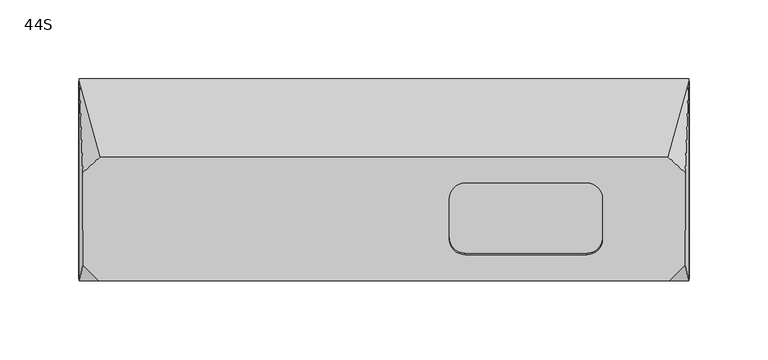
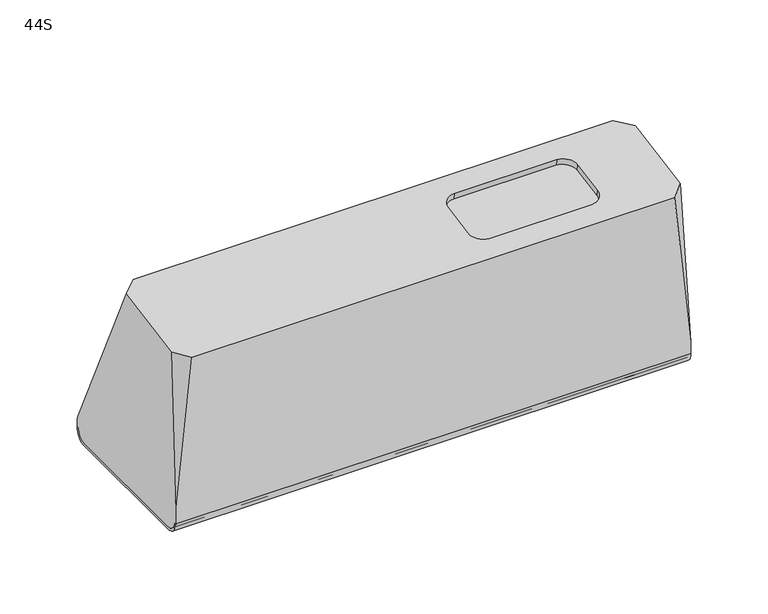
"""IFC4 building model written with IfcOpenShell, lengths in millimetres: proxy geometry, d&b xS-Series 44S Point Source : 44S."""

from ifc_helpers import new_model, si_unit, point, frame, frame_2d, origin, place, context, project, spatial, polyline, circle_curve, ellipse_curve, trimmed, segment, composite_curve, outline, extrude, source, transform, mapped, element, save
from ifc_brep_helpers import plane_surface, cylinder_surface, revolved_surface, advanced_brep


def proxy_44s_f6e05639(model_context):
    return source(origin(), model_context, "Body", "SolidModel", [
        advanced_brep(
        [(193.2924342, -64.0, -66.0), (193.2924342, -62.0435242, -66.0), (193.4294708, -54.078429, -73.9650952), (193.4294708, 54.0, -73.9650952), (193.2918337, 62.0, -65.9650952), (193.2918337, 64.0, -65.9650952), (193.1898069, 64.0, -60.0349048), (193.132384, 62.7855103, -56.6972655), (190.8800877, 4.3760941, 74.2148737), (191.0574064, -54.074657, 63.9084293), (193.132384, -64.0, -56.6972655), (-193.2924342, -62.0435242, -66.0), (-193.2924342, -64.0, -66.0), (-193.132384, -64.0, -56.6972655), (-191.0574064, -54.074657, 63.9084293), (-190.8800877, 4.3760941, 74.2148737), (-193.132384, 62.7855103, -56.6972655), (-193.1898069, 64.0, -60.0349048), (-193.2918337, 64.0, -65.9650952), (-193.2918337, 62.0, -65.9650952), (-193.4294708, 54.0, -73.9650952), (-193.4294708, -54.078429, -73.9650952), (181.3061997, -64.0, 62.1583235), (-181.3061997, -64.0, 62.1583235), (-179.9289467, 14.5000481, 76.0), (179.9289467, 14.5000481, 76.0), (138.5, -11.9474751, 71.3365881), (138.5, -37.5524767, 66.8217355), (128.5, -47.4005542, 65.0852537), (51.5, -47.4005542, 65.0852537), (41.5, -37.5524767, 66.8217355), (41.5, -11.9474751, 71.3365881), (51.5, -2.0993976, 73.0730698), (128.5, -2.0993976, 73.0730698), (138.5, -11.0792343, 66.4125493), (128.5, -1.2311567, 68.1490311), (51.5, -1.2311567, 68.1490311), (41.5, -11.0792343, 66.4125493), (41.5, -36.6842358, 61.8976967), (51.5, -46.5323134, 60.1612149), (128.5, -46.5323134, 60.1612149), (138.5, -36.6842358, 61.8976967)],
        [
            (0, 1),
            (1, 2, ellipse_curve(frame((193.2924342, -54.078429, -66.0), z_axis=(0.9998520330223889, 0.0, 0.017202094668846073), x_axis=(0.01720209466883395, 0.0, -0.999852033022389)), 7.9662739, 7.9650952)),
            (2, 3),
            (3, 4, ellipse_curve(frame((193.2918337, 54.0, -65.9650952), z_axis=(0.9998520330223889, 0.0, 0.017202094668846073), x_axis=(0.01720209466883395, 0.0, -0.999852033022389)), 8.0011839, 8.0)),
            (4, 5),
            (5, 6),
            (6, 7),
            (7, 8),
            (8, 9),
            (9, 10),
            (10, 0),
            (11, 12),
            (12, 13),
            (13, 14),
            (14, 15),
            (15, 16),
            (16, 17),
            (17, 18),
            (18, 19),
            (19, 20, ellipse_curve(frame((-193.2918337, 54.0, -65.9650952), z_axis=(-0.999852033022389, 0.0, 0.01720209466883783), x_axis=(0.017202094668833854, 0.0, 0.999852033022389)), 8.0011839, 8.0)),
            (20, 21),
            (21, 11, ellipse_curve(frame((-193.2924342, -54.078429, -66.0), z_axis=(-0.999852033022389, 0.0, 0.01720209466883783), x_axis=(0.017202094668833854, 0.0, 0.999852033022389)), 7.9662739, 7.9650952)),
            (0, 12),
            (11, 1),
            (21, 2),
            (20, 3),
            (19, 4),
            (18, 5),
            (17, 6),
            (10, 22),
            (22, 23),
            (23, 13),
            (16, 24),
            (24, 25),
            (25, 7),
            (9, 22),
            (23, 14),
            (15, 24),
            (25, 8),
            (26, 27),
            (27, 28, circle_curve(frame((128.5, -37.5524767, 66.8217355), z_axis=(0.0, 0.1736481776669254, -0.984807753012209), x_axis=(0.0, 0.984807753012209, 0.1736481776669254)), 10.0)),
            (28, 29),
            (29, 30, circle_curve(frame((51.5, -37.5524767, 66.8217355), z_axis=(0.0, 0.1736481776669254, -0.984807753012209), x_axis=(0.0, 0.984807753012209, 0.1736481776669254)), 10.0)),
            (30, 31),
            (31, 32, circle_curve(frame((51.5, -11.9474751, 71.3365881), z_axis=(0.0, 0.1736481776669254, -0.984807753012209), x_axis=(0.0, 0.984807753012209, 0.1736481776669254)), 10.0)),
            (32, 33),
            (33, 26, circle_curve(frame((128.5, -11.9474751, 71.3365881), z_axis=(0.0, 0.1736481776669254, -0.984807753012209), x_axis=(0.0, 0.984807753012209, 0.1736481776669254)), 10.0)),
            (34, 35, circle_curve(frame((128.5, -11.0792343, 66.4125493), z_axis=(0.0, -0.1736481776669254, 0.984807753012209), x_axis=(0.0, 0.984807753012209, 0.1736481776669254)), 10.0)),
            (35, 36),
            (36, 37, circle_curve(frame((51.5, -11.0792343, 66.4125493), z_axis=(0.0, -0.1736481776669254, 0.984807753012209), x_axis=(0.0, 0.984807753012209, 0.1736481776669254)), 10.0)),
            (37, 38),
            (38, 39, circle_curve(frame((51.5, -36.6842358, 61.8976967), z_axis=(0.0, -0.1736481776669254, 0.984807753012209), x_axis=(0.0, 0.984807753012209, 0.1736481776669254)), 10.0)),
            (39, 40),
            (40, 41, circle_curve(frame((128.5, -36.6842358, 61.8976967), z_axis=(0.0, -0.1736481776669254, 0.984807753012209), x_axis=(0.0, 0.984807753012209, 0.1736481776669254)), 10.0)),
            (41, 34),
            (41, 27),
            (26, 34),
            (40, 28),
            (39, 29),
            (38, 30),
            (37, 31),
            (36, 32),
            (35, 33),
        ],
        [
            plane_surface(frame((193.8309972, 100.0, -97.3033587), z_axis=(0.9998520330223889, 0.0, 0.017202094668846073), x_axis=(0.0, -1.0, 0.0))),
            plane_surface(frame((-190.7119283, 100.0, 83.9889493), z_axis=(-0.999852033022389, 0.0, 0.01720209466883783), x_axis=(0.0, -1.0, 0.0))),
            plane_surface(frame((207.1452552, -64.0, -66.0), z_axis=(0.0, 0.0, -1.0), x_axis=(-1.0, 0.0, 0.0))),
            cylinder_surface(frame((-207.1452552, -54.078429, -66.0), z_axis=(1.0, 0.0, 0.0), x_axis=(0.0, -1.0, 0.0)), 7.9650952),
            plane_surface(frame((207.1452552, -54.078429, -73.9650952), z_axis=(0.0, 0.0, -1.0), x_axis=(-1.0, 0.0, 0.0))),
            cylinder_surface(frame((-207.1452552, 54.0, -65.9650952), z_axis=(1.0, 0.0, 0.0), x_axis=(0.0, -1.0, 0.0)), 8.0),
            plane_surface(frame((207.1452552, 62.0, -65.9650952), z_axis=(0.0, 0.0, -1.0), x_axis=(-1.0, 0.0, 0.0))),
            plane_surface(frame((207.1452552, 64.0, -65.9650952), z_axis=(0.0, 1.0, 0.0), x_axis=(-1.0, 0.0, 0.0))),
            plane_surface(frame((207.1452552, -64.0, -60.0349048), z_axis=(0.0, -1.0, 0.0), x_axis=(-1.0, 0.0, 0.0))),
            plane_surface(frame((0.0, 14.5000481, 76.0), z_axis=(0.0, 0.9397208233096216, 0.34194264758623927), x_axis=(1.0, 0.0, 0.0))),
            plane_surface(frame((186.6967137, -57.232233, 76.0), z_axis=(0.705363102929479, -0.7053631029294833, 0.07018394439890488), x_axis=(-0.7071067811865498, -0.7071067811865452, 0.0))),
            plane_surface(frame((-186.6967137, -57.232233, 76.0), z_axis=(-0.705363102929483, -0.7053631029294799, 0.0701839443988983), x_axis=(-0.7071067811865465, 0.7071067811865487, 0.0))),
            plane_surface(frame((-186.6967137, 7.7322812, 76.0), z_axis=(-0.6719558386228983, 0.6719558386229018, 0.3113690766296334), x_axis=(0.7071067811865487, 0.7071067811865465, 0.0))),
            plane_surface(frame((186.6967137, 7.7322812, 76.0), z_axis=(0.6719558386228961, 0.6719558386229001, 0.3113690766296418), x_axis=(0.7071067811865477, -0.7071067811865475, 0.0))),
            plane_surface(frame((250.0, -81.2585403, 59.1151772), z_axis=(0.0, -0.1736481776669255, 0.984807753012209), x_axis=(-1.0, 0.0, 0.0))),
            plane_surface(frame((138.5, -63.1317591, 57.2342848), z_axis=(0.0, -0.1736481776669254, 0.9848077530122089), x_axis=(0.0, -0.9848077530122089, -0.1736481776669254))),
            plane_surface(frame((138.5, -11.0792343, 66.4125493), z_axis=(-1.0, 0.0, 0.0), x_axis=(0.0, -0.1736481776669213, 0.9848077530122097))),
            revolved_surface(polyline([(128.5, -26.836158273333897, 63.63417846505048), (128.5, -27.70439916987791, 68.55821727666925)]), (128.5, -37.5524767, 66.8217355), (0.0, 0.1736481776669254, -0.984807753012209)),
            plane_surface(frame((128.5, -46.5323134, 60.1612149), z_axis=(0.0, 0.9848077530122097, 0.1736481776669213), x_axis=(0.0, -0.1736481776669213, 0.9848077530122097))),
            revolved_surface(polyline([(51.5, -26.836158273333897, 63.63417846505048), (51.5, -27.70439916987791, 68.55821727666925)]), (51.5, -37.5524767, 66.8217355), (0.0, 0.1736481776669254, -0.984807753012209)),
            plane_surface(frame((41.5, -36.6842358, 61.8976967), z_axis=(1.0, 0.0, 0.0), x_axis=(0.0, -0.1736481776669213, 0.9848077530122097))),
            revolved_surface(polyline([(51.5, -1.2311566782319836, 68.14903109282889), (51.5, -2.09939756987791, 73.07306987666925)]), (51.5, -11.9474751, 71.3365881), (0.0, 0.1736481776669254, -0.984807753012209)),
            plane_surface(frame((51.5, -1.2311567, 68.1490311), z_axis=(0.0, -0.9848077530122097, -0.1736481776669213), x_axis=(0.0, -0.1736481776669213, 0.9848077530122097))),
            revolved_surface(polyline([(128.5, -1.2311566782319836, 68.14903109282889), (128.5, -2.09939756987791, 73.07306987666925)]), (128.5, -11.9474751, 71.3365881), (0.0, 0.1736481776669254, -0.984807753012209)),
        ],
        [
            (0, [[1, 2, 3, 4, 5, 6, 7, 8, 9, 10, 11]]),
            (1, [[12, 13, 14, 15, 16, 17, 18, 19, 20, 21, 22]]),
            (2, [[23, -12, 24, -1]]),
            (3, [[-24, -22, 25, -2]]),
            (4, [[-25, -21, 26, -3]]),
            (5, [[-26, -20, 27, -4]]),
            (6, [[-27, -19, 28, -5]]),
            (7, [[-28, -18, 29, -6]]),
            (8, [[-23, -11, 30, 31, 32, -13]]),
            (9, [[-29, -17, 33, 34, 35, -7]]),
            (10, [[-30, -10, 36]]),
            (11, [[-32, 37, -14]]),
            (12, [[-33, -16, 38]]),
            (13, [[-35, 39, -8]]),
            (14, [[-31, -36, -9, -39, -34, -38, -15, -37], [40, 41, 42, 43, 44, 45, 46, 47]]),
            (15, [[48, 49, 50, 51, 52, 53, 54, 55]]),
            (16, [[-55, 56, -40, 57]]),
            (17, [[-54, 58, -41, -56]]),
            (18, [[-53, 59, -42, -58]]),
            (19, [[-52, 60, -43, -59]]),
            (20, [[-51, 61, -44, -60]]),
            (21, [[-50, 62, -45, -61]]),
            (22, [[-49, 63, -46, -62]]),
            (23, [[-48, -57, -47, -63]]),
        ],
    ),
        extrude(outline(polyline([(-148.4644806, 27.6666667), (-164.7978139, 27.6666667), (-164.7978139, 44.0), (-148.4644806, 44.0), (-148.4644806, 27.6666667)])), frame((0.0, 0.0, -76.0), z_axis=(0.0, 0.0, 1.0), x_axis=(1.0, 0.0, 0.0)), (0.0, 0.0, 1.0), 5.0),
        extrude(outline(polyline([(-148.4644806, 9.0), (-164.7978139, 9.0), (-164.7978139, 25.3333333), (-148.4644806, 25.3333333), (-148.4644806, 9.0)])), frame((0.0, 0.0, -76.0), z_axis=(0.0, 0.0, 1.0), x_axis=(1.0, 0.0, 0.0)), (0.0, 0.0, 1.0), 5.0),
        extrude(outline(polyline([(-167.1311473, 9.0), (-183.4644806, 9.0), (-183.4644806, 25.3333333), (-167.1311473, 25.3333333), (-167.1311473, 9.0)])), frame((0.0, 0.0, -76.0), z_axis=(0.0, 0.0, 1.0), x_axis=(1.0, 0.0, 0.0)), (0.0, 0.0, 1.0), 5.0),
        extrude(outline(composite_curve([segment(trimmed(circle_curve(frame_2d((-175.2978139, 35.8333333)), 8.1666667), [point((-183.4644806, 35.8333333))], [point((-167.1311473, 35.8333333))], False, "CARTESIAN"), True, "CONTINUOUS"), segment(trimmed(circle_curve(frame_2d((-175.2978139, 35.8333333)), 8.1666667), [point((-167.1311473, 35.8333333))], [point((-183.4644806, 35.8333333))], False, "CARTESIAN"), True, "CONTINUOUS")], self_intersect=False)), frame((0.0, 0.0, -76.0), z_axis=(0.0, 0.0, 1.0), x_axis=(1.0, 0.0, 0.0)), (0.0, 0.0, 1.0), 5.0),
        advanced_brep(
        [(193.4294708, 54.0, -73.9650952), (193.4294708, -54.078429, -73.9650952), (193.2924342, -62.0435242, -66.0), (193.2924342, -64.0, -66.0), (193.4644806, -54.0, -76.0), (193.4644806, 54.0, -76.0), (193.2918337, 64.0349048, -65.9650952), (193.2918337, 62.0, -65.9650952), (-193.4294708, -54.078429, -73.9650952), (-193.4294708, 54.0, -73.9650952), (-193.2918337, 62.0, -65.9650952), (-193.2918337, 64.0349048, -65.9650952), (-193.4644806, 54.0, -76.0), (-193.4644806, -54.0, -76.0), (-193.2924342, -64.0, -66.0), (-193.2924342, -62.0435242, -66.0)],
        [
            (0, 1),
            (1, 2, ellipse_curve(frame((193.2924342, -54.078429, -66.0), z_axis=(-0.9998520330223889, 0.0, -0.017202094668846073), x_axis=(-0.01720209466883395, 0.0, 0.999852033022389)), 7.9662739, 7.9650952)),
            (2, 3),
            (3, 4, ellipse_curve(frame((193.2924342, -54.0, -66.0), z_axis=(0.9998520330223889, 0.0, 0.017202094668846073), x_axis=(0.01720209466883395, 0.0, -0.999852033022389)), 10.0014799, 10.0)),
            (4, 5),
            (5, 6, ellipse_curve(frame((193.2918337, 54.0, -65.9650952), z_axis=(0.9998520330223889, 0.0, 0.017202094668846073), x_axis=(0.01720209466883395, 0.0, -0.999852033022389)), 10.0363899, 10.0349048)),
            (6, 7),
            (7, 0, ellipse_curve(frame((193.2918337, 54.0, -65.9650952), z_axis=(-0.9998520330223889, 0.0, -0.017202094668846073), x_axis=(-0.01720209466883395, 0.0, 0.999852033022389)), 8.0011839, 8.0)),
            (8, 9),
            (9, 10, ellipse_curve(frame((-193.2918337, 54.0, -65.9650952), z_axis=(0.999852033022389, 0.0, -0.01720209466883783), x_axis=(-0.017202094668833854, 0.0, -0.999852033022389)), 8.0011839, 8.0)),
            (10, 11),
            (11, 12, ellipse_curve(frame((-193.2918337, 54.0, -65.9650952), z_axis=(-0.999852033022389, 0.0, 0.01720209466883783), x_axis=(0.017202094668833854, 0.0, 0.999852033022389)), 10.0363899, 10.0349048)),
            (12, 13),
            (13, 14, ellipse_curve(frame((-193.2924342, -54.0, -66.0), z_axis=(-0.999852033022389, 0.0, 0.01720209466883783), x_axis=(0.017202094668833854, 0.0, 0.999852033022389)), 10.0014799, 10.0)),
            (14, 15),
            (15, 8, ellipse_curve(frame((-193.2924342, -54.078429, -66.0), z_axis=(0.999852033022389, 0.0, -0.01720209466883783), x_axis=(-0.017202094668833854, 0.0, -0.999852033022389)), 7.9662739, 7.9650952)),
            (0, 9),
            (8, 1),
            (15, 2),
            (14, 3),
            (13, 4),
            (12, 5),
            (11, 6),
            (10, 7),
        ],
        [
            plane_surface(frame((193.8309972, 100.0, -97.3033587), z_axis=(0.9998520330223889, 0.0, 0.017202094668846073), x_axis=(0.0, -1.0, 0.0))),
            plane_surface(frame((-190.7119283, 100.0, 83.9889493), z_axis=(-0.999852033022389, 0.0, 0.01720209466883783), x_axis=(0.0, -1.0, 0.0))),
            plane_surface(frame((202.5, 54.0, -73.9650952), z_axis=(0.0, 0.0, 1.0), x_axis=(-1.0, 0.0, 0.0))),
            revolved_surface(polyline([(-193.4294708, -46.1133338, -66.0), (193.4294708, -46.1133338, -66.0)]), (-202.5, -54.078429, -66.0), (-1.0, 0.0, 0.0)),
            plane_surface(frame((202.5, -62.0435242, -66.0), z_axis=(0.0, 0.0, 1.0), x_axis=(-1.0, 0.0, 0.0))),
            cylinder_surface(frame((-202.5, -54.0, -66.0), z_axis=(1.0, 0.0, 0.0), x_axis=(0.0, 1.0, 0.0)), 10.0),
            plane_surface(frame((202.5, -54.0, -76.0), z_axis=(0.0, 0.0, -1.0), x_axis=(-1.0, 0.0, 0.0))),
            cylinder_surface(frame((-202.5, 54.0, -65.9650952), z_axis=(1.0, 0.0, 0.0), x_axis=(0.0, 1.0, 0.0)), 10.0349048),
            plane_surface(frame((202.5, 64.0349048, -65.9650952), z_axis=(0.0, 0.0, 1.0), x_axis=(-1.0, 0.0, 0.0))),
            revolved_surface(polyline([(-193.42947082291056, 62.0, -65.9650952), (193.42947082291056, 62.0, -65.9650952)]), (-202.5, 54.0, -65.9650952), (-1.0, 0.0, 0.0)),
        ],
        [
            (0, [[1, 2, 3, 4, 5, 6, 7, 8]]),
            (1, [[9, 10, 11, 12, 13, 14, 15, 16]]),
            (2, [[17, -9, 18, -1]]),
            (3, [[-18, -16, 19, -2]]),
            (4, [[-19, -15, 20, -3]]),
            (5, [[-20, -14, 21, -4]]),
            (6, [[-21, -13, 22, -5]]),
            (7, [[-22, -12, 23, -6]]),
            (8, [[-23, -11, 24, -7]]),
            (9, [[-17, -8, -24, -10]]),
        ],
    ),
    ])


if __name__ == "__main__":
    model = new_model("IFC4")
    model_context = context("Model", 3, world=origin())
    ifc_project = project(units=[si_unit("LENGTHUNIT", "METRE", prefix="MILLI")], contexts=[model_context])
    site = spatial("IfcSite", under=ifc_project)
    building = spatial("IfcBuilding", under=site)
    placement = place(None, origin())
    proxy_44s_shape = proxy_44s_f6e05639(model_context)
    element("IfcBuildingElementProxy", 1, Name="d&b xS-Series 44S Point Source : 44S", ObjectType="d&b xS-Series 44S Point Source : 44S", at=placement, inside=building, context=model_context, shape_type="MappedRepresentation", body=[
        mapped(proxy_44s_shape, transform((0.0, 0.0, 0.0), x_axis=(1.0, 0.0, 0.0), y_axis=(0.0, 1.0, 0.0), z_axis=(0.0, 0.0, 1.0))),
    ])
    save(model, "model.ifc")
